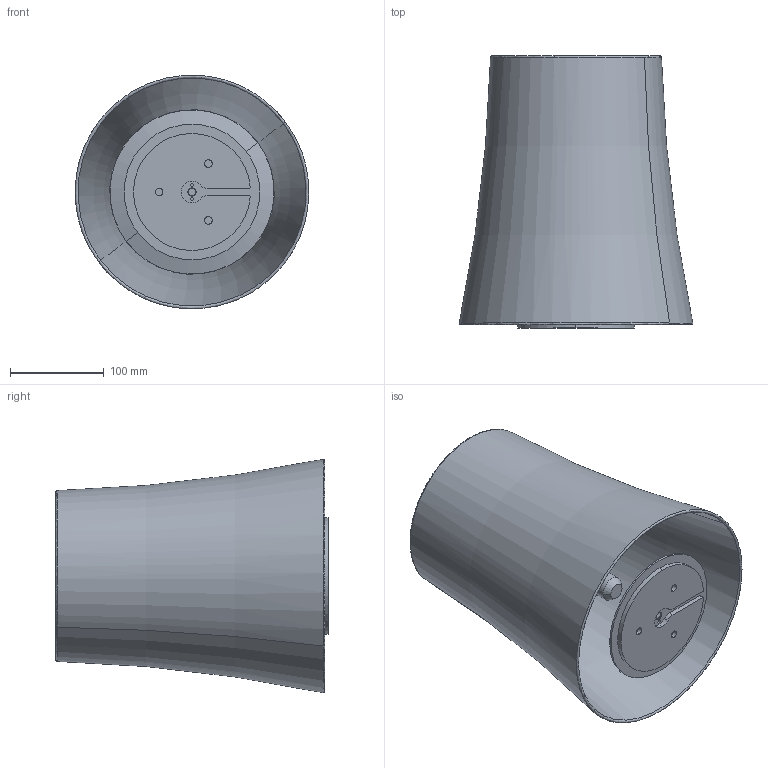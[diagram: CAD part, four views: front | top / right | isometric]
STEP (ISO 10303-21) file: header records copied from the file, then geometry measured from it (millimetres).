
FILE_DESCRIPTION (( 'STEP AP203' ), '1' );
FILE_NAME ('BIRDIE 0 GRANDE TAVOLO.STEP', '2020-07-15T07:53:21', ( '' ), ( '' ), 'SwSTEP 2.0', 'SolidWorks 2020', '' );
FILE_SCHEMA (( 'CONFIG_CONTROL_DESIGN' ));
Length unit declared in the file: millimetre
Products named in the file (1): BIRDIE 0 GRANDE TAVOLO
Bounding box: 249.61 x 290.8 x 249.37 mm (x, y, z)
Volume: 733506.4 mm3; surface area: 512458.5 mm2
Topology: 4 solids, 5 shells, 92 faces, 247 edges, 159 vertices
Faces by surface type: cylinder 30, torus 24, cone 20, plane 8, bspline 6, sphere 4
Entity records: 5217 total; most frequent: CARTESIAN_POINT 2864, DIRECTION 502, ORIENTED_EDGE 474, EDGE_CURVE 237, AXIS2_PLACEMENT_3D 223, VERTEX_POINT 153, CIRCLE 136, EDGE_LOOP 104
